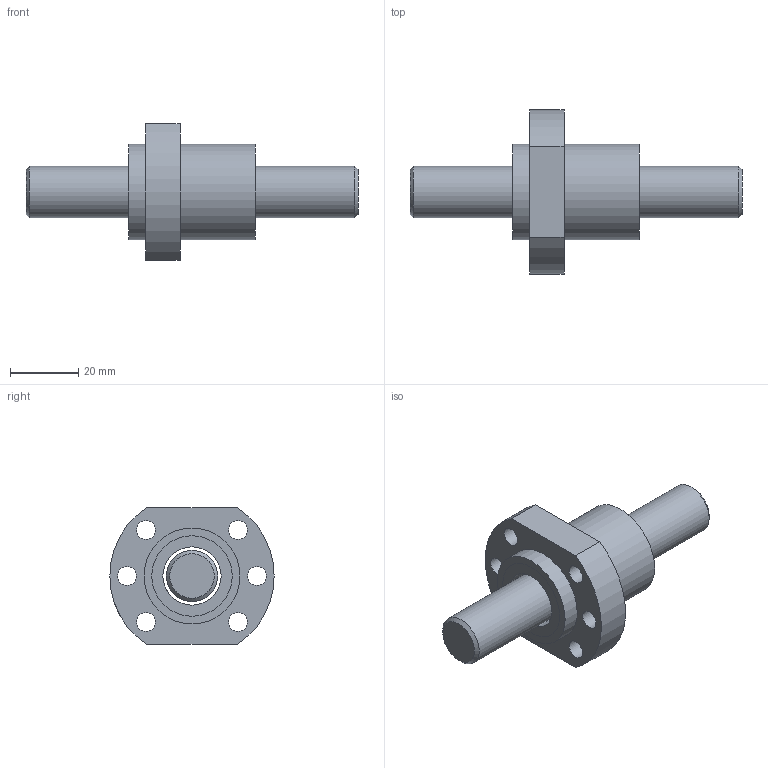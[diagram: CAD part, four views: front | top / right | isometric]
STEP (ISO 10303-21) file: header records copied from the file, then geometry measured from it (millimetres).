
FILE_DESCRIPTION (( 'STEP AP203' ), '1' );
FILE_NAME ('SFNH1605-3.8.STEP', '2023-07-27T05:51:23', ( '' ), ( '' ), 'SwSTEP 2.0', 'SolidWorks 2022', '' );
FILE_SCHEMA (( 'CONFIG_CONTROL_DESIGN' ));
Length unit declared in the file: millimetre
Products named in the file (1): SFNH1605-3.8
Bounding box: 97 x 48 x 40 mm (x, y, z)
Volume: 40286.1 mm3; surface area: 17852.6 mm2
Topology: 4 solids, 4 shells, 62 faces, 124 edges, 82 vertices
Faces by surface type: cylinder 33, plane 23, cone 3, bspline 3
Full cylindrical faces by diameter (mm): 4 x1, 5 x5, 5.5 x6, 15 x1, 17 x3, 20 x4, 23.5 x4, 25 x4, 28 x2
Entity records: 2508 total; most frequent: CARTESIAN_POINT 1344, DIRECTION 234, ORIENTED_EDGE 154, EDGE_LOOP 118, AXIS2_PLACEMENT_3D 111, FACE_OUTER_BOUND 83, EDGE_CURVE 77, VERTEX_POINT 69
